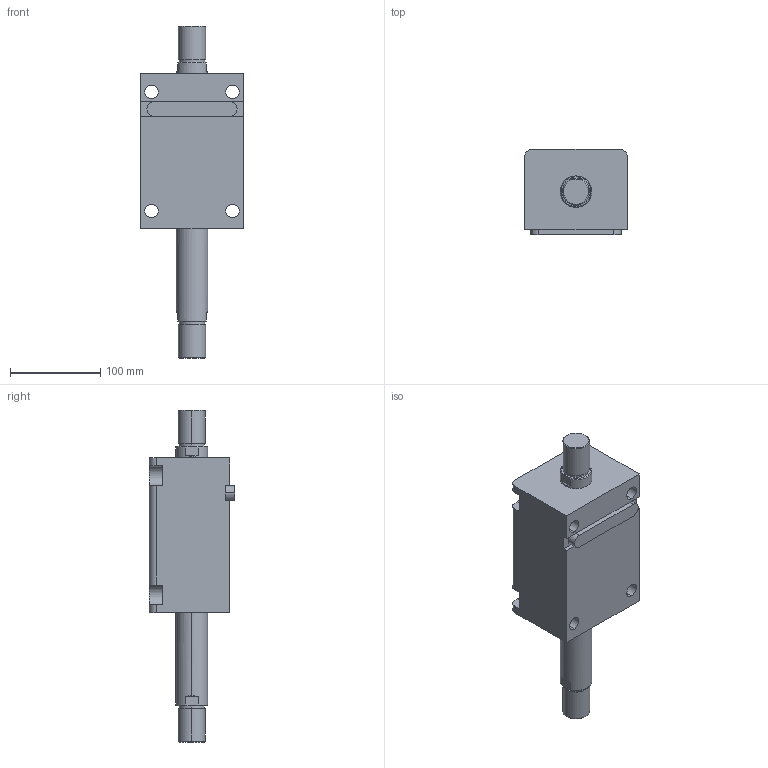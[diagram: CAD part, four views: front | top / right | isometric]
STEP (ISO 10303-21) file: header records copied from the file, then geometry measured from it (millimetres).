
FILE_DESCRIPTION (( 'STEP AP203' ), '1' );
FILE_NAME ('HTB-LW63-90W.STEP', '2019-10-09T08:29:50', ( '微软用户' ), ( '微软中国' ), 'SwSTEP 2.0', 'SolidWorks 2012', '' );
FILE_SCHEMA (( 'CONFIG_CONTROL_DESIGN' ));
Length unit declared in the file: millimetre
Products named in the file (4): HTB-LW63-90W; HTB-LA63-瑩; HTB-LW63-90W活塞杆; HTB-LW63-90掛极
Assembly tree (3 placements, depth 2):
  HTB-LW63-90W
    HTB-LW63-90掛极
    HTB-LW63-90W活塞杆
    HTB-LA63-瑩
Bounding box: 114 x 94.5 x 368 mm (x, y, z)
Volume: 1638465.3 mm3; surface area: 188989.3 mm2
Topology: 3 solids, 3 shells, 109 faces, 265 edges, 174 vertices
Faces by surface type: plane 48, cylinder 45, cone 12, torus 4
Entity records: 3679 total; most frequent: CARTESIAN_POINT 610, DIRECTION 593, ORIENTED_EDGE 530, EDGE_CURVE 265, AXIS2_PLACEMENT_3D 229, VERTEX_POINT 174, VECTOR 135, LINE 135
